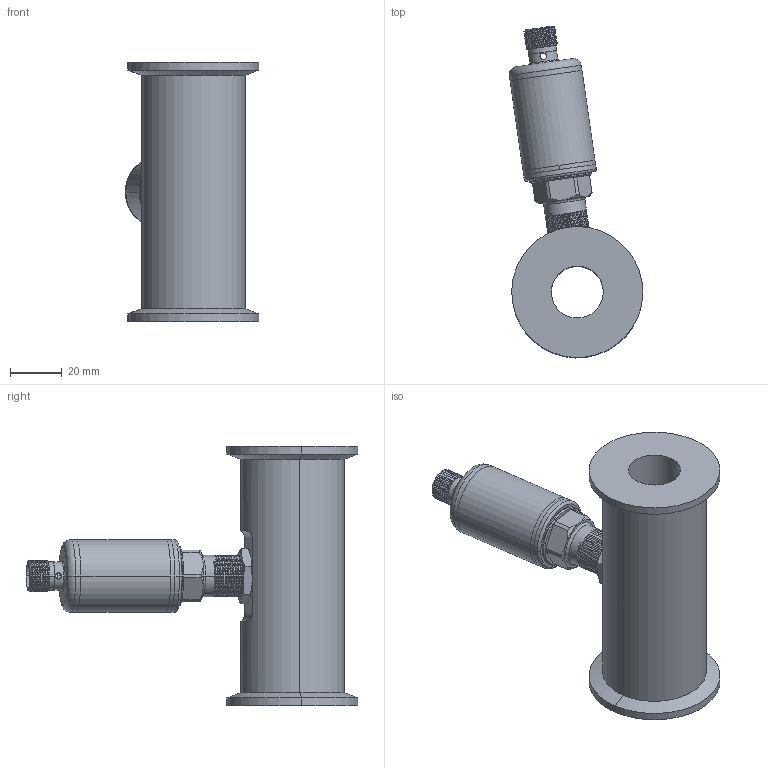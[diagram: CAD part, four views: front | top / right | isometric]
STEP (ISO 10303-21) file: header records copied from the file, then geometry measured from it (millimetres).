
FILE_DESCRIPTION (( 'STEP AP214' ), '1' );
FILE_NAME ('BFW1K20-J.STEP', '2026-01-20T07:21:44', ( '' ), ( '' ), 'SwSTEP 2.0', 'SolidWorks 2023', '' );
FILE_SCHEMA (( 'AUTOMOTIVE_DESIGN' ));
Length unit declared in the file: millimetre
Products named in the file (8): 压力变送器; BFW1K20-J; DN20卡盘主华东; 连接管; 垫片; M16螺母; 壳体; 探头
Assembly tree (7 placements, depth 3):
  BFW1K20-J
    压力变送器
      壳体
      垫片
      连接管
      探头
    M16螺母
    DN20卡盘主华东
Bounding box: 51.44 x 127.83 x 100 mm (x, y, z)
Volume: 110546.9 mm3; surface area: 41446 mm2
Topology: 6 solids, 6 shells, 239 faces, 600 edges, 385 vertices
Faces by surface type: cylinder 130, cone 52, plane 43, torus 8, bspline 6
Entity records: 11568 total; most frequent: CARTESIAN_POINT 5949, ORIENTED_EDGE 1200, DIRECTION 1072, EDGE_CURVE 600, AXIS2_PLACEMENT_3D 430, VERTEX_POINT 385, EDGE_LOOP 271, ADVANCED_FACE 239
